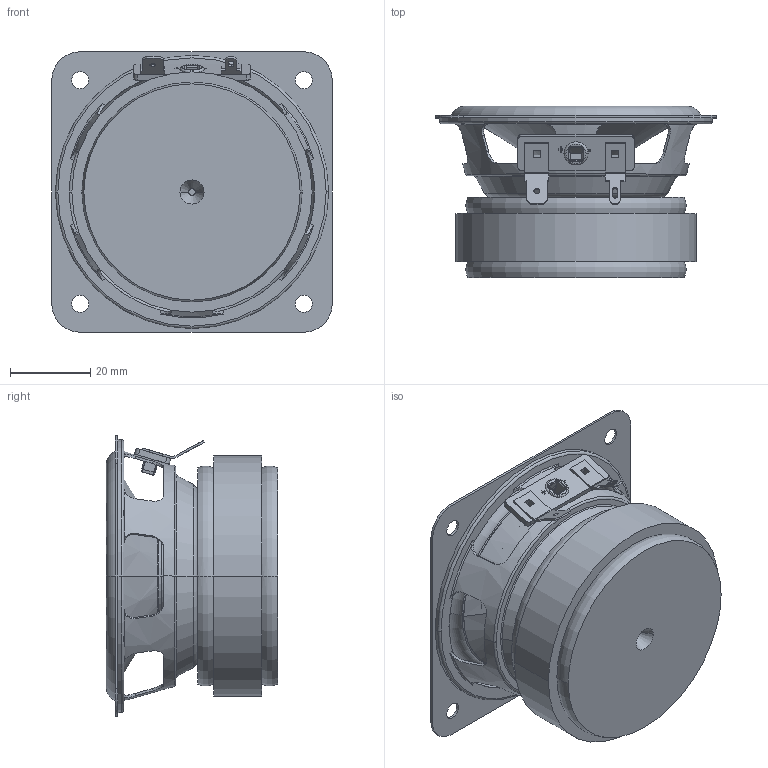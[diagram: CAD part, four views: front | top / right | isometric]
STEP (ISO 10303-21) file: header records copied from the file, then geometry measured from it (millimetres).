
FILE_DESCRIPTION((''),'2;1');
FILE_NAME('1138_ASM','2023-09-23T13:38:04',('54257'),(''),'CREO PARAMETRIC BY PTC INC, 2020053','CREO PARAMETRIC BY PTC INC, 2020053','');
FILE_SCHEMA(('CONFIG_CONTROL_DESIGN','SHAPE_APPEARANCE_LAYERS_GROUPS'));
Length unit declared in the file: millimetre
Products named in the file (14): HF-1138; HP_1138; HM_1138; HY_1138; HV_1138; HA_1138; HC-1_1138; HD_1138; 1_0_01138; 1-1138; 3_0_1138; 4_0_1138; HT-1138_ASM; 1138_ASM
Assembly tree (13 placements, depth 3):
  1138_ASM
    HF-1138
    HP_1138
    HM_1138
    HY_1138
    HV_1138
    HA_1138
    HC-1_1138
    HD_1138
    HT-1138_ASM
      1_0_01138
      1-1138
      3_0_1138
      4_0_1138
Bounding box: 70 x 42.75 x 70 mm (x, y, z)
Volume: 53482.1 mm3; surface area: 48349 mm2
Topology: 12 solids, 12 shells, 471 faces, 1120 edges, 680 vertices
Faces by surface type: plane 173, cylinder 120, torus 98, cone 76, sphere 4
Entity records: 21174 total; most frequent: CARTESIAN_POINT 2960, DIRECTION 2522, ORIENTED_EDGE 2232, PRESENTATION_STYLE_ASSIGNMENT 1599, STYLED_ITEM 1599, CURVE_STYLE 1116, EDGE_CURVE 1116, AXIS2_PLACEMENT_3D 1008
